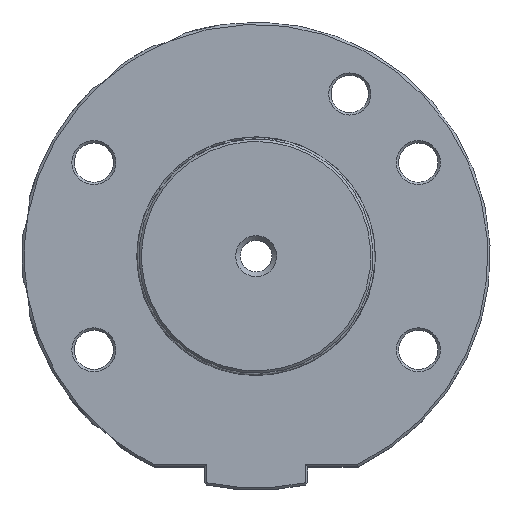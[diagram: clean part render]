
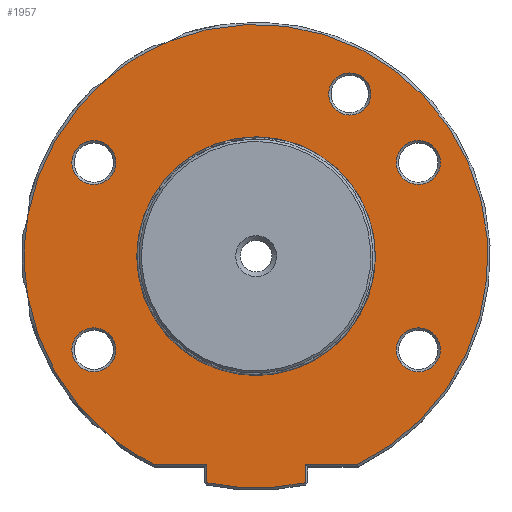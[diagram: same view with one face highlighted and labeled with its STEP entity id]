
A CAD part, top view. The second image highlights one B-rep face of the part: STEP entity #1957.
In plain terms, the highlighted planar face has unit normal (0, 0, 1).
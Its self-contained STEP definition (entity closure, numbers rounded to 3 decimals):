
#83=FACE_BOUND('',#591,.T.);
#84=FACE_BOUND('',#592,.T.);
#85=FACE_BOUND('',#593,.T.);
#86=FACE_BOUND('',#594,.T.);
#87=FACE_BOUND('',#595,.T.);
#88=FACE_BOUND('',#596,.T.);
#114=PLANE('',#2177);
#242=LINE('',#3361,#335);
#243=LINE('',#3375,#336);
#244=LINE('',#3377,#337);
#245=LINE('',#3380,#338);
#335=VECTOR('',#2617,10.);
#336=VECTOR('',#2630,10.);
#337=VECTOR('',#2631,10.);
#338=VECTOR('',#2634,10.);
#465=FACE_OUTER_BOUND('',#590,.T.);
#590=EDGE_LOOP('',(#1499,#1500,#1501,#1502,#1503,#1504,#1505,#1506,#1507,
#1508,#1509));
#591=EDGE_LOOP('',(#1510));
#592=EDGE_LOOP('',(#1511));
#593=EDGE_LOOP('',(#1512));
#594=EDGE_LOOP('',(#1513));
#595=EDGE_LOOP('',(#1514));
#596=EDGE_LOOP('',(#1515));
#675=CIRCLE('',#2050,25.5);
#711=CIRCLE('',#2111,4.7);
#713=CIRCLE('',#2115,4.7);
#715=CIRCLE('',#2119,4.7);
#717=CIRCLE('',#2123,4.7);
#746=CIRCLE('',#2176,4.5);
#747=CIRCLE('',#2178,49.5);
#748=CIRCLE('',#2179,49.5);
#749=CIRCLE('',#2180,49.5);
#750=CIRCLE('',#2181,49.5);
#751=CIRCLE('',#2182,49.5);
#752=CIRCLE('',#2183,49.5);
#753=CIRCLE('',#2184,49.5);
#795=VERTEX_POINT('',#2863);
#852=VERTEX_POINT('',#3110);
#854=VERTEX_POINT('',#3118);
#856=VERTEX_POINT('',#3126);
#858=VERTEX_POINT('',#3134);
#893=VERTEX_POINT('',#3355);
#894=VERTEX_POINT('',#3359);
#895=VERTEX_POINT('',#3360);
#896=VERTEX_POINT('',#3362);
#897=VERTEX_POINT('',#3364);
#898=VERTEX_POINT('',#3366);
#899=VERTEX_POINT('',#3368);
#900=VERTEX_POINT('',#3370);
#901=VERTEX_POINT('',#3372);
#902=VERTEX_POINT('',#3374);
#903=VERTEX_POINT('',#3376);
#904=VERTEX_POINT('',#3378);
#974=EDGE_CURVE('',#795,#795,#675,.T.);
#1046=EDGE_CURVE('',#852,#852,#711,.T.);
#1050=EDGE_CURVE('',#854,#854,#713,.T.);
#1054=EDGE_CURVE('',#856,#856,#715,.T.);
#1058=EDGE_CURVE('',#858,#858,#717,.T.);
#1112=EDGE_CURVE('',#893,#893,#746,.T.);
#1114=EDGE_CURVE('',#894,#895,#242,.T.);
#1115=EDGE_CURVE('',#896,#894,#747,.T.);
#1116=EDGE_CURVE('',#897,#896,#748,.T.);
#1117=EDGE_CURVE('',#898,#897,#749,.T.);
#1118=EDGE_CURVE('',#899,#898,#750,.T.);
#1119=EDGE_CURVE('',#900,#899,#751,.T.);
#1120=EDGE_CURVE('',#901,#900,#752,.T.);
#1121=EDGE_CURVE('',#902,#901,#243,.T.);
#1122=EDGE_CURVE('',#903,#902,#244,.T.);
#1123=EDGE_CURVE('',#904,#903,#753,.T.);
#1124=EDGE_CURVE('',#895,#904,#245,.T.);
#1499=ORIENTED_EDGE('',*,*,#1114,.F.);
#1500=ORIENTED_EDGE('',*,*,#1115,.F.);
#1501=ORIENTED_EDGE('',*,*,#1116,.F.);
#1502=ORIENTED_EDGE('',*,*,#1117,.F.);
#1503=ORIENTED_EDGE('',*,*,#1118,.F.);
#1504=ORIENTED_EDGE('',*,*,#1119,.F.);
#1505=ORIENTED_EDGE('',*,*,#1120,.F.);
#1506=ORIENTED_EDGE('',*,*,#1121,.F.);
#1507=ORIENTED_EDGE('',*,*,#1122,.F.);
#1508=ORIENTED_EDGE('',*,*,#1123,.F.);
#1509=ORIENTED_EDGE('',*,*,#1124,.F.);
#1510=ORIENTED_EDGE('',*,*,#1112,.F.);
#1511=ORIENTED_EDGE('',*,*,#1054,.F.);
#1512=ORIENTED_EDGE('',*,*,#1046,.F.);
#1513=ORIENTED_EDGE('',*,*,#974,.F.);
#1514=ORIENTED_EDGE('',*,*,#1050,.F.);
#1515=ORIENTED_EDGE('',*,*,#1058,.F.);
#1957=ADVANCED_FACE('',(#465,#83,#84,#85,#86,#87,#88),#114,.T.);
#2050=AXIS2_PLACEMENT_3D('',#2864,#2307,#2308);
#2111=AXIS2_PLACEMENT_3D('',#3111,#2457,#2458);
#2115=AXIS2_PLACEMENT_3D('',#3119,#2467,#2468);
#2119=AXIS2_PLACEMENT_3D('',#3127,#2477,#2478);
#2123=AXIS2_PLACEMENT_3D('',#3135,#2487,#2488);
#2176=AXIS2_PLACEMENT_3D('',#3356,#2612,#2613);
#2177=AXIS2_PLACEMENT_3D('',#3358,#2615,#2616);
#2178=AXIS2_PLACEMENT_3D('',#3363,#2618,#2619);
#2179=AXIS2_PLACEMENT_3D('',#3365,#2620,#2621);
#2180=AXIS2_PLACEMENT_3D('',#3367,#2622,#2623);
#2181=AXIS2_PLACEMENT_3D('',#3369,#2624,#2625);
#2182=AXIS2_PLACEMENT_3D('',#3371,#2626,#2627);
#2183=AXIS2_PLACEMENT_3D('',#3373,#2628,#2629);
#2184=AXIS2_PLACEMENT_3D('',#3379,#2632,#2633);
#2307=DIRECTION('center_axis',(0.,0.,
1.));
#2308=DIRECTION('ref_axis',(-1.,0.,0.));
#2457=DIRECTION('center_axis',(0.,0.,
1.));
#2458=DIRECTION('ref_axis',(-1.,0.,0.));
#2467=DIRECTION('center_axis',(0.,0.,
1.));
#2468=DIRECTION('ref_axis',(-1.,0.,0.));
#2477=DIRECTION('center_axis',(0.,0.,
1.));
#2478=DIRECTION('ref_axis',(-1.,0.,0.));
#2487=DIRECTION('center_axis',(0.,0.,
1.));
#2488=DIRECTION('ref_axis',(-1.,0.,0.));
#2612=DIRECTION('center_axis',(0.,0.,
1.));
#2613=DIRECTION('ref_axis',(-1.,0.,0.));
#2615=DIRECTION('center_axis',(0.,0.,
1.));
#2616=DIRECTION('ref_axis',(1.,0.,0.));
#2617=DIRECTION('',(-1.,0.,0.));
#2618=DIRECTION('center_axis',(0.,0.,
-1.));
#2619=DIRECTION('ref_axis',(-1.,0.,0.));
#2620=DIRECTION('center_axis',(0.,0.,
-1.));
#2621=DIRECTION('ref_axis',(-1.,0.,0.));
#2622=DIRECTION('center_axis',(0.,0.,
-1.));
#2623=DIRECTION('ref_axis',(-1.,0.,0.));
#2624=DIRECTION('center_axis',(0.,0.,
-1.));
#2625=DIRECTION('ref_axis',(-1.,0.,0.));
#2626=DIRECTION('center_axis',(0.,0.,
-1.));
#2627=DIRECTION('ref_axis',(-1.,0.,0.));
#2628=DIRECTION('center_axis',(0.,0.,
-1.));
#2629=DIRECTION('ref_axis',(-1.,0.,0.));
#2630=DIRECTION('',(-1.,0.,0.));
#2631=DIRECTION('',(0.,1.,0.));
#2632=DIRECTION('center_axis',(0.,0.,
-1.));
#2633=DIRECTION('ref_axis',(-1.,0.,0.));
#2634=DIRECTION('',(0.,-1.,0.));
#2863=CARTESIAN_POINT('',(25.5,0.,66.));
#2864=CARTESIAN_POINT('Origin',(0.,0.,
66.));
#3110=CARTESIAN_POINT('',(-29.941,20.,66.));
#3111=CARTESIAN_POINT('Origin',(-34.641,20.,66.));
#3118=CARTESIAN_POINT('',(-29.941,-20.,66.));
#3119=CARTESIAN_POINT('Origin',(-34.641,-20.,66.));
#3126=CARTESIAN_POINT('',(39.341,-20.,66.));
#3127=CARTESIAN_POINT('Origin',(34.641,-20.,66.));
#3134=CARTESIAN_POINT('',(39.341,20.,66.));
#3135=CARTESIAN_POINT('Origin',(34.641,20.,66.));
#3355=CARTESIAN_POINT('',(24.5,34.641,66.));
#3356=CARTESIAN_POINT('Origin',(20.,34.641,66.));
#3358=CARTESIAN_POINT('Origin',(0.,0.,
66.));
#3359=CARTESIAN_POINT('',(21.679,-44.5,66.));
#3360=CARTESIAN_POINT('',(10.5,-44.5,66.));
#3361=CARTESIAN_POINT('',(16.828,-44.5,66.));
#3362=CARTESIAN_POINT('',(-18.543,45.896,66.));
#3363=CARTESIAN_POINT('Origin',(0.,0.,
66.));
#3364=CARTESIAN_POINT('',(-31.818,37.919,66.));
#3365=CARTESIAN_POINT('Origin',(0.,0.,
66.));
#3366=CARTESIAN_POINT('',(-48.748,8.596,66.));
#3367=CARTESIAN_POINT('Origin',(0.,0.,
66.));
#3368=CARTESIAN_POINT('',(-48.748,-8.596,66.));
#3369=CARTESIAN_POINT('Origin',(0.,0.,
66.));
#3370=CARTESIAN_POINT('',(-31.818,-37.919,66.));
#3371=CARTESIAN_POINT('Origin',(0.,0.,
66.));
#3372=CARTESIAN_POINT('',(-21.679,-44.5,66.));
#3373=CARTESIAN_POINT('Origin',(0.,0.,
66.));
#3374=CARTESIAN_POINT('',(-10.5,-44.5,66.));
#3375=CARTESIAN_POINT('',(-5.5,-44.5,66.));
#3376=CARTESIAN_POINT('',(-10.5,-48.374,66.));
#3377=CARTESIAN_POINT('',(-10.5,-25.148,66.));
#3378=CARTESIAN_POINT('',(10.5,-48.374,66.));
#3379=CARTESIAN_POINT('Origin',(0.,0.,
66.));
#3380=CARTESIAN_POINT('',(10.5,-22.5,66.));
